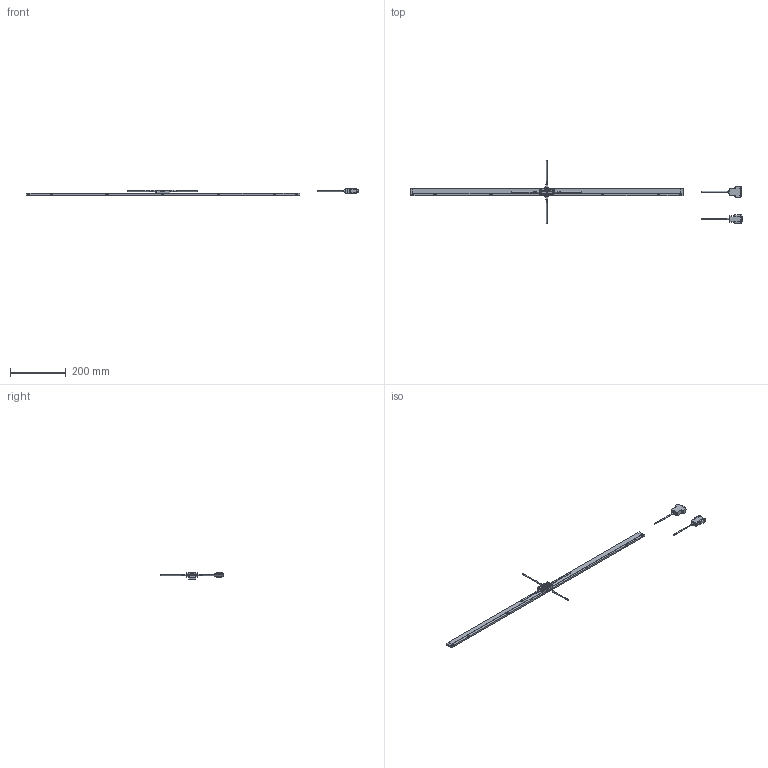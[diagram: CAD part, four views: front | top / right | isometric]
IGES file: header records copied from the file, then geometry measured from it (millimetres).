
Start section: Elysium IGES Interface
Global section: file name: 77H\\Utsu119s\kiyo_cad\data\3D\ST700_小型\HP掲載用_201802\PKG\ABS_ST700-900A.igs; native system: Creo Elements/Direct Modeling 18.1B  29-Sep-2012; preprocessor: Creo Element/Direct IGES_3D V2.2; author: Unknown; organization: Unknown; date: 20180214.111919; units: millimetre
Bounding box: 1189.3 x 227.7 x 23.3 mm (x, y, z)
Volume: 280408.6 mm3; surface area: 102739.9 mm2
Topology: 7 solids, 7 shells, 6696 faces, 18317 edges, 12063 vertices
Faces by surface type: bspline 6696
